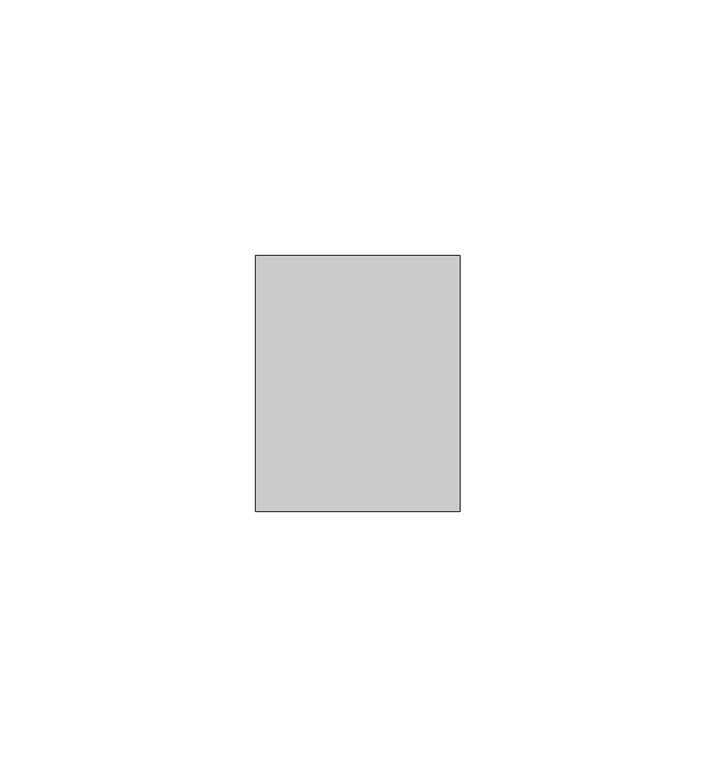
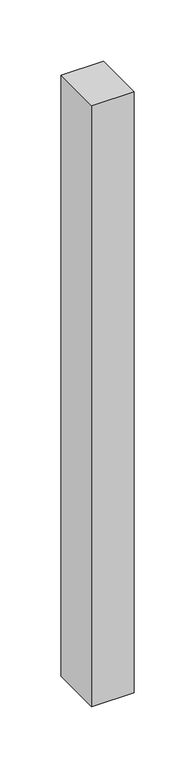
"""IFC4 building model written with IfcOpenShell, lengths in millimetres: member geometry, Прямоугольный импост : 40х50."""

from ifc_helpers import new_model, si_unit, frame, origin, place, context, project, spatial, polyline, outline, extrude, source, transform, mapped, element, save


def member_16139e31(model_context):
    return source(origin(), model_context, "Body", "SweptSolid", [
        extrude(outline(polyline([(20.0, 0.0), (20.0, -50.0), (-20.0, -50.0), (-20.0, 0.0), (20.0, 0.0)])), frame((0.0, 0.0, -600.0), z_axis=(0.0, 0.0, 1.0), x_axis=(1.0, 0.0, 0.0)), (0.0, 0.0, 1.0), 600.0),
    ])


if __name__ == "__main__":
    model = new_model("IFC4")
    model_context = context("Model", 3, world=origin())
    ifc_project = project(units=[si_unit("LENGTHUNIT", "METRE", prefix="MILLI")], contexts=[model_context])
    site = spatial("IfcSite", under=ifc_project)
    building = spatial("IfcBuilding", under=site)
    placement = place(None, origin())
    member_shape = member_16139e31(model_context)
    element("IfcMember", 1, ObjectType="Прямоугольный импост : 40х50", at=placement, inside=building, context=model_context, shape_type="MappedRepresentation", body=[
        mapped(member_shape, transform((0.0, 0.0, 0.0), x_axis=(1.0, 0.0, 0.0), y_axis=(0.0, 1.0, 0.0), z_axis=(0.0, 0.0, 1.0))),
    ])
    save(model, "model.ifc")
